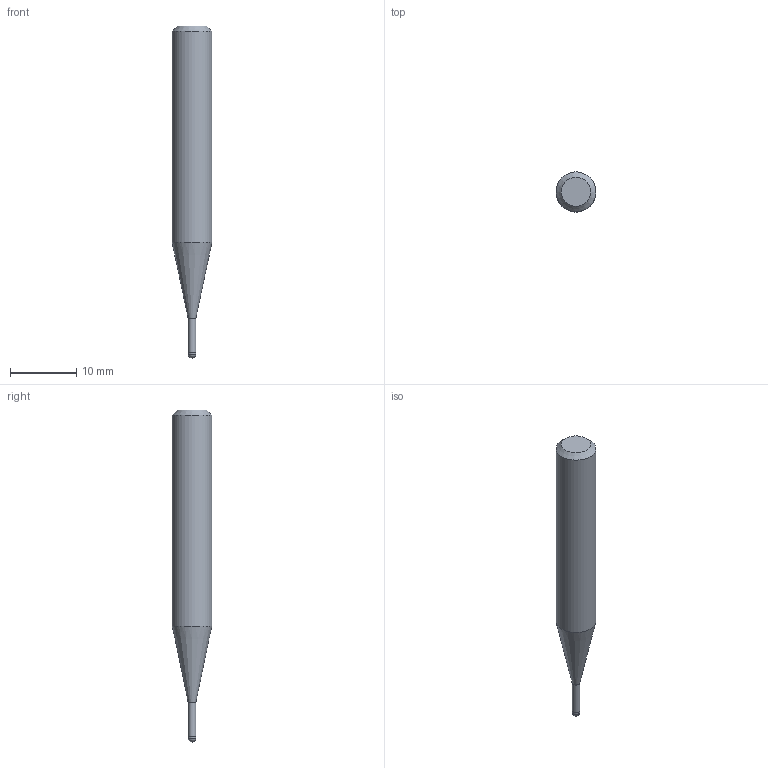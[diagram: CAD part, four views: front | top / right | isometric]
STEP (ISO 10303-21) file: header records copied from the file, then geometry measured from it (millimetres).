
FILE_DESCRIPTION((''),'2;1');
FILE_NAME('C:\Users\nsx150\AppData\Local\Temp\Mastercam 2021\3SYKECWX22\TEMP.step','2021-04-22T10:02:45',(''),(''),'STEP Write','Mastercam 2021 ... CNC Software, Inc.','');
FILE_SCHEMA(('AUTOMOTIVE_DESIGN'));
Length unit declared in the file: millimetre
Products named in the file (1): None
Bounding box: 6 x 6 x 50 mm (x, y, z)
Volume: 1054.2 mm3; surface area: 787.9 mm2
Topology: 2 solids, 2 shells, 9 faces, 14 edges, 8 vertices
Faces by surface type: plane 3, cylinder 3, cone 2, sphere 1
Full cylindrical faces by diameter (mm): 1.15 x1, 1.2 x1, 6 x1
Entity records: 211 total; most frequent: DIRECTION 36, CARTESIAN_POINT 25, AXIS2_PLACEMENT_3D 18, ORIENTED_EDGE 14, EDGE_LOOP 14, STYLED_ITEM 12, ADVANCED_FACE 9, FACE_BOUND 8
